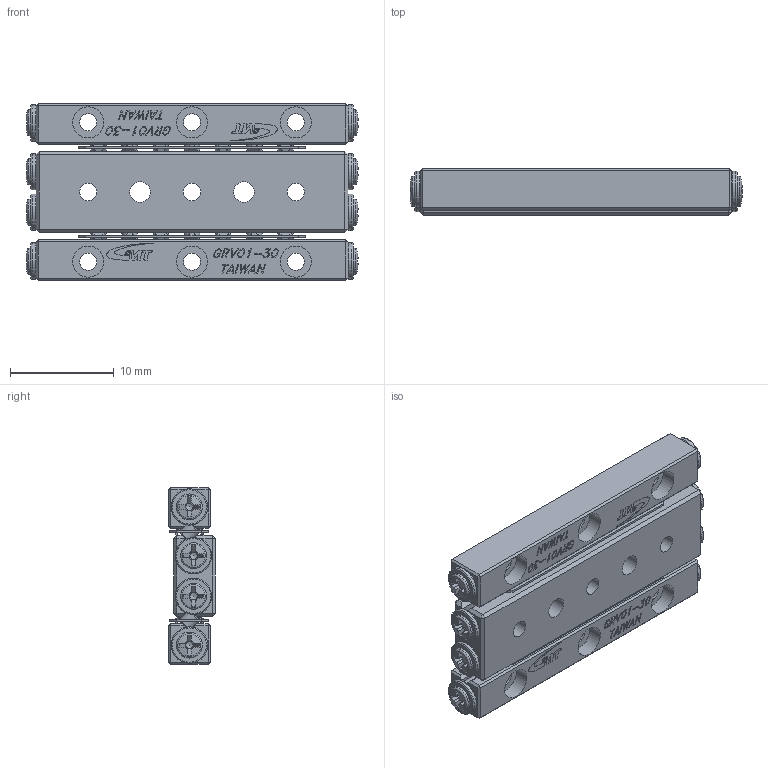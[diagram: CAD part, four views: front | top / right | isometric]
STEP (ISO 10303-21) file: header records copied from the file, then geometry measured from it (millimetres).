
FILE_DESCRIPTION (( 'STEP AP203' ), '1' );
FILE_NAME ('GRD01-30.STEP', '2023-08-08T07:47:39', ( '' ), ( '' ), 'SwSTEP 2.0', 'SolidWorks 2019', '' );
FILE_SCHEMA (( 'CONFIG_CONTROL_DESIGN' ));
Length unit declared in the file: millimetre
Products named in the file (4): GRD01-30-模糊化中軌; GRD01-30; GRV01-30-模糊化軌道; GRV01-30-模糊化保持器組
Assembly tree (5 placements, depth 2):
  GRD01-30
    GRD01-30-模糊化中軌
    GRV01-30-模糊化軌道  x2
    GRV01-30-模糊化保持器組  x2
Bounding box: 31.96 x 4.5 x 17 mm (x, y, z)
Volume: 1689.1 mm3; surface area: 2735.4 mm2
Topology: 5 solids, 13 shells, 1886 faces, 4928 edges, 3200 vertices
Faces by surface type: plane 1262, bspline 302, cylinder 182, cone 80, torus 52, sphere 8
Full cylindrical faces by diameter (mm): 1.32 x8, 1.65 x9, 2 x2, 2.5 x8, 3 x9, 3.5 x8
Entity records: 40135 total; most frequent: CARTESIAN_POINT 13376, ORIENTED_EDGE 5794, DIRECTION 4657, EDGE_CURVE 2897, VECTOR 1923, LINE 1923, VERTEX_POINT 1900, AXIS2_PLACEMENT_3D 1367
